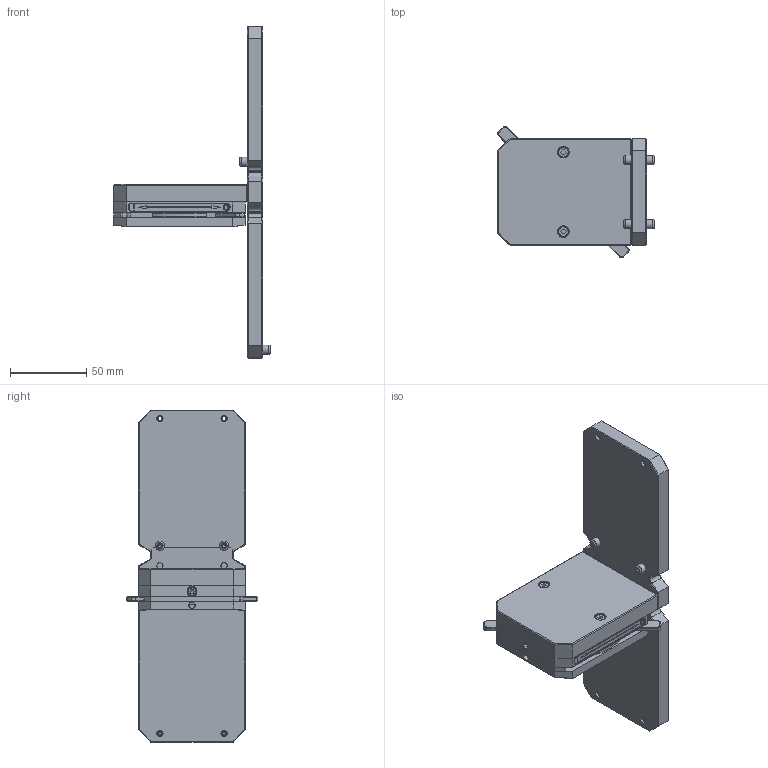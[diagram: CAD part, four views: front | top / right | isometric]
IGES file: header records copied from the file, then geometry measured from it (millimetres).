
Global section: file name: C:\Users\ad134596\Desktop\LA-5103-4430  VERTICAL MOUNT BASE ASSY\LA-5103-4430-A  VERTICAL MOUNT MAG.BASE ASSY.igs; native system: NX V12.0; preprocessor: SIEMENS PLM Software NX 12.0; date: 20200211.090751; units: millimetre
Bounding box: 102.5 x 86.01 x 217.6 mm (x, y, z)
Surface area: 80038.9 mm2 (no closed solid volume)
Topology: 0 solids, 0 shells, 1008 faces, 6706 edges, 6505 vertices
Faces by surface type: bspline 1008
